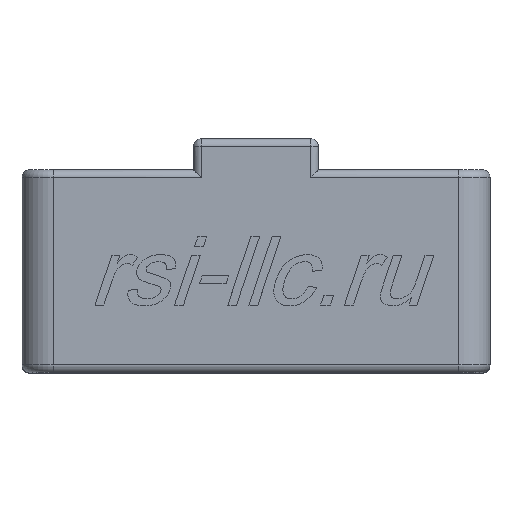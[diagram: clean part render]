
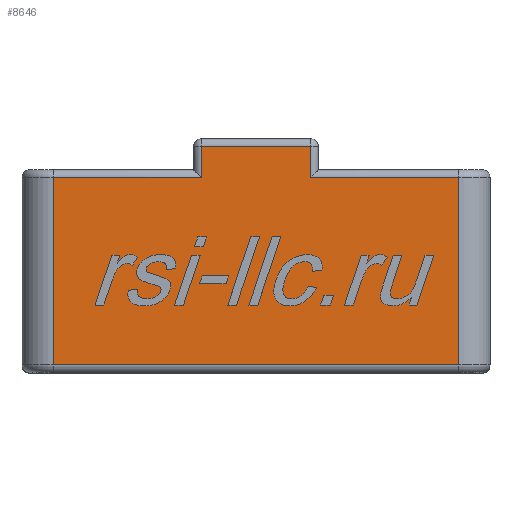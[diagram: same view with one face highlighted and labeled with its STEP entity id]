
A CAD part, top view. The second image highlights one B-rep face of the part: STEP entity #8646.
In plain terms, the highlighted planar face has unit normal (0, 0, 1).
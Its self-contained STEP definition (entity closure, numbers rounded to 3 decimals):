
#157 = VECTOR ( 'NONE', #7424, 1000. ) ;
#535 = LINE ( 'NONE', #3969, #157 ) ;
#604 = LINE ( 'NONE', #4044, #1026 ) ;
#648 = VERTEX_POINT ( 'NONE', #6852 ) ;
#724 = DIRECTION ( 'NONE',  ( -1., 0., 0. ) ) ;
#817 = VECTOR ( 'NONE', #4538, 1000. ) ;
#1026 = VECTOR ( 'NONE', #7498, 1000. ) ;
#1089 = CARTESIAN_POINT ( 'NONE',  ( -13., 6.5, 15. ) ) ;
#1536 = DIRECTION ( 'NONE',  ( -1., 0., 0. ) ) ;
#1665 = EDGE_CURVE ( 'NONE', #11041, #648, #5010, .T. ) ;
#1962 = EDGE_CURVE ( 'NONE', #7082, #10797, #604, .T. ) ;
#3068 = DIRECTION ( 'NONE',  ( -1., 0., 0. ) ) ;
#3167 = CARTESIAN_POINT ( 'NONE',  ( -13., -6., 15. ) ) ;
#3285 = DIRECTION ( 'NONE',  ( -1., 0., 0. ) ) ;
#3288 = VERTEX_POINT ( 'NONE', #10216 ) ;
#3415 = EDGE_CURVE ( 'NONE', #7082, #3288, #7575, .T. ) ;
#3710 = CARTESIAN_POINT ( 'NONE',  ( 13., 6., 15. ) ) ;
#3716 = CARTESIAN_POINT ( 'NONE',  ( -3.5, 6., 15. ) ) ;
#3791 = CARTESIAN_POINT ( 'NONE',  ( 3.5, 8., 15. ) ) ;
#3875 = ORIENTED_EDGE ( 'NONE', *, *, #1962, .F. ) ;
#3944 = VECTOR ( 'NONE', #1536, 1000. ) ;
#3969 = CARTESIAN_POINT ( 'NONE',  ( 13., 6.5, 15. ) ) ;
#3974 = LINE ( 'NONE', #7432, #6134 ) ;
#4011 = EDGE_CURVE ( 'NONE', #3288, #11041, #3974, .T. ) ;
#4044 = CARTESIAN_POINT ( 'NONE',  ( 3.5, 8.5, 15. ) ) ;
#4538 = DIRECTION ( 'NONE',  ( 0., -1., 0. ) ) ;
#4815 = ORIENTED_EDGE ( 'NONE', *, *, #8340, .T. ) ;
#5003 = ORIENTED_EDGE ( 'NONE', *, *, #5056, .T. ) ;
#5006 = EDGE_CURVE ( 'NONE', #5171, #8873, #535, .T. ) ;
#5010 = LINE ( 'NONE', #8485, #7337 ) ;
#5056 = EDGE_CURVE ( 'NONE', #5171, #10797, #5836, .T. ) ;
#5122 = AXIS2_PLACEMENT_3D ( 'NONE', #7364, #10826, #3068 ) ;
#5171 = VERTEX_POINT ( 'NONE', #3710 ) ;
#5535 = CARTESIAN_POINT ( 'NONE',  ( 3.5, 6., 15. ) ) ;
#5559 = FACE_OUTER_BOUND ( 'NONE', #7760, .T. ) ;
#5836 = LINE ( 'NONE', #9301, #3944 ) ;
#5923 = ORIENTED_EDGE ( 'NONE', *, *, #6061, .T. ) ;
#5980 = CARTESIAN_POINT ( 'NONE',  ( -13., -6., 15. ) ) ;
#6061 = EDGE_CURVE ( 'NONE', #648, #9920, #8855, .T. ) ;
#6134 = VECTOR ( 'NONE', #10892, 1000. ) ;
#6600 = DIRECTION ( 'NONE',  ( 1., 0., 0. ) ) ;
#6702 = VECTOR ( 'NONE', #3285, 1000. ) ;
#6852 = CARTESIAN_POINT ( 'NONE',  ( -13., 6., 15. ) ) ;
#7082 = VERTEX_POINT ( 'NONE', #3791 ) ;
#7304 = VECTOR ( 'NONE', #6600, 1000. ) ;
#7337 = VECTOR ( 'NONE', #724, 1000. ) ;
#7364 = CARTESIAN_POINT ( 'NONE',  ( -13., 6.5, 15. ) ) ;
#7424 = DIRECTION ( 'NONE',  ( 0., -1., 0. ) ) ;
#7432 = CARTESIAN_POINT ( 'NONE',  ( -3.5, 8.5, 15. ) ) ;
#7498 = DIRECTION ( 'NONE',  ( 0., -1., 0. ) ) ;
#7575 = LINE ( 'NONE', #11032, #6702 ) ;
#7760 = EDGE_LOOP ( 'NONE', ( #3875, #10145, #10642, #10568, #5923, #4815, #8933, #5003 ) ) ;
#8340 = EDGE_CURVE ( 'NONE', #9920, #8873, #10919, .T. ) ;
#8485 = CARTESIAN_POINT ( 'NONE',  ( -13., 6., 15. ) ) ;
#8495 = CARTESIAN_POINT ( 'NONE',  ( 13., -6., 15. ) ) ;
#8646 = ADVANCED_FACE ( 'NONE', ( #5559 ), #9035, .F. ) ;
#8855 = LINE ( 'NONE', #1089, #817 ) ;
#8873 = VERTEX_POINT ( 'NONE', #8495 ) ;
#8933 = ORIENTED_EDGE ( 'NONE', *, *, #5006, .F. ) ;
#9035 = PLANE ( 'NONE',  #5122 ) ;
#9301 = CARTESIAN_POINT ( 'NONE',  ( 3.5, 6., 15. ) ) ;
#9920 = VERTEX_POINT ( 'NONE', #5980 ) ;
#10145 = ORIENTED_EDGE ( 'NONE', *, *, #3415, .T. ) ;
#10216 = CARTESIAN_POINT ( 'NONE',  ( -3.5, 8., 15. ) ) ;
#10568 = ORIENTED_EDGE ( 'NONE', *, *, #1665, .T. ) ;
#10642 = ORIENTED_EDGE ( 'NONE', *, *, #4011, .T. ) ;
#10797 = VERTEX_POINT ( 'NONE', #5535 ) ;
#10826 = DIRECTION ( 'NONE',  ( 0., 0., -1. ) ) ;
#10892 = DIRECTION ( 'NONE',  ( 0., -1., 0. ) ) ;
#10919 = LINE ( 'NONE', #3167, #7304 ) ;
#11032 = CARTESIAN_POINT ( 'NONE',  ( -13., 8., 15. ) ) ;
#11041 = VERTEX_POINT ( 'NONE', #3716 ) ;
